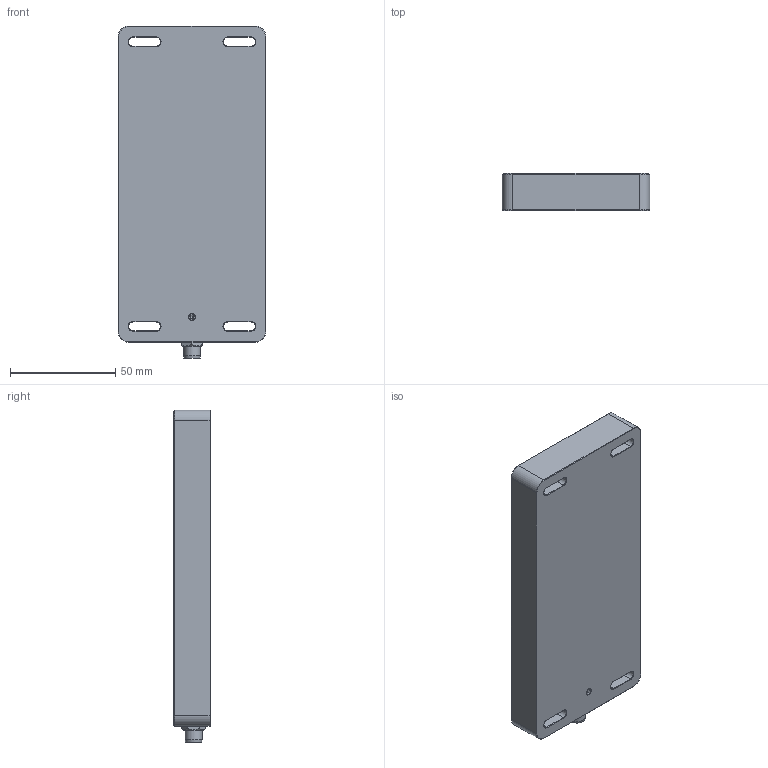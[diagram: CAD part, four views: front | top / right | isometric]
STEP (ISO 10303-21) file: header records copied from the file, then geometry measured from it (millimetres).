
FILE_DESCRIPTION(/* description */ (''),/* implementation_level */ '2;1');
FILE_NAME(/* name */ 'G:\Daten\Leuchten\02100 - LED FLS - FLS-RGBW\03 - CAD\FLS150\led-aufbauleuchte-fls-150.stp',/* time_stamp */ '2023-04-25T08:43:14+02:00',/* author */ ('gzahn'),/* organization */ (''),/* preprocessor_version */ 'ST-DEVELOPER v19',/* originating_system */ 'Autodesk Inventor 2023',/* authorisation */ '');
FILE_SCHEMA (('AUTOMOTIVE_DESIGN { 1 0 10303 214 3 1 1 }'));
Length unit declared in the file: millimetre
Products named in the file (1): led-aufbauleuchte-fls-150
Bounding box: 70 x 17.5 x 157.5 mm (x, y, z)
Volume: 176830.3 mm3; surface area: 32336.1 mm2
Topology: 1 solids, 1 shells, 157 faces, 356 edges, 215 vertices
Faces by surface type: plane 87, cylinder 34, cone 32, bspline 4
Full cylindrical faces by diameter (mm): 1 x4, 5.8 x1, 8 x1
Entity records: 4657 total; most frequent: CARTESIAN_POINT 843, DIRECTION 766, ORIENTED_EDGE 708, EDGE_CURVE 354, AXIS2_PLACEMENT_3D 264, LINE 238, VECTOR 238, VERTEX_POINT 215
